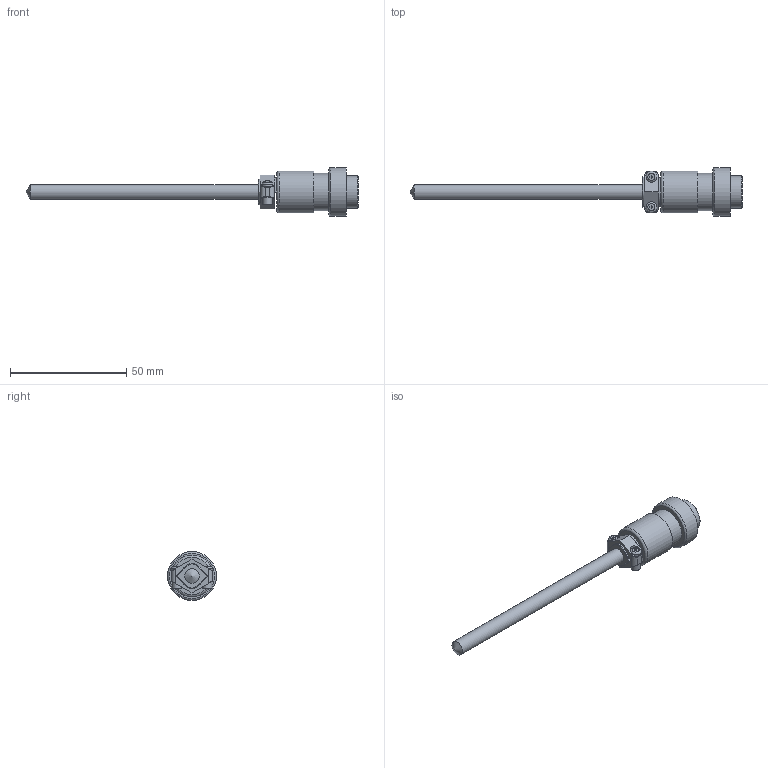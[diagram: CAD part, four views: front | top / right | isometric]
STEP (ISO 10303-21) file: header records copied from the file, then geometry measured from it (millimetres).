
FILE_DESCRIPTION (( 'STEP AP203' ), '1' );
FILE_NAME ('YIT90S-4(0).step', '2025-06-19T02:30:02', ( '' ), ( '' ), 'SwSTEP 2.0', 'SolidWorks 2021', '' );
FILE_SCHEMA (( 'CONFIG_CONTROL_DESIGN' ));
Length unit declared in the file: millimetre
Products named in the file (1): YIT90S-4(0)
Bounding box: 143 x 21 x 21 mm (x, y, z)
Volume: 11478.3 mm3; surface area: 6763 mm2
Topology: 4 solids, 4 shells, 82 faces, 194 edges, 127 vertices
Faces by surface type: plane 50, cylinder 20, torus 4, bspline 4, cone 2, sphere 2
Full cylindrical faces by diameter (mm): 2.5 x1, 3 x1, 4 x2, 4.7 x2, 4.8 x2, 6.4 x1, 13.5 x1, 14 x1, 16 x2, 18 x1, 21 x1
Entity records: 2381 total; most frequent: CARTESIAN_POINT 615, DIRECTION 328, ORIENTED_EDGE 316, EDGE_CURVE 158, EDGE_LOOP 118, VERTEX_POINT 116, AXIS2_PLACEMENT_3D 113, LINE 102
